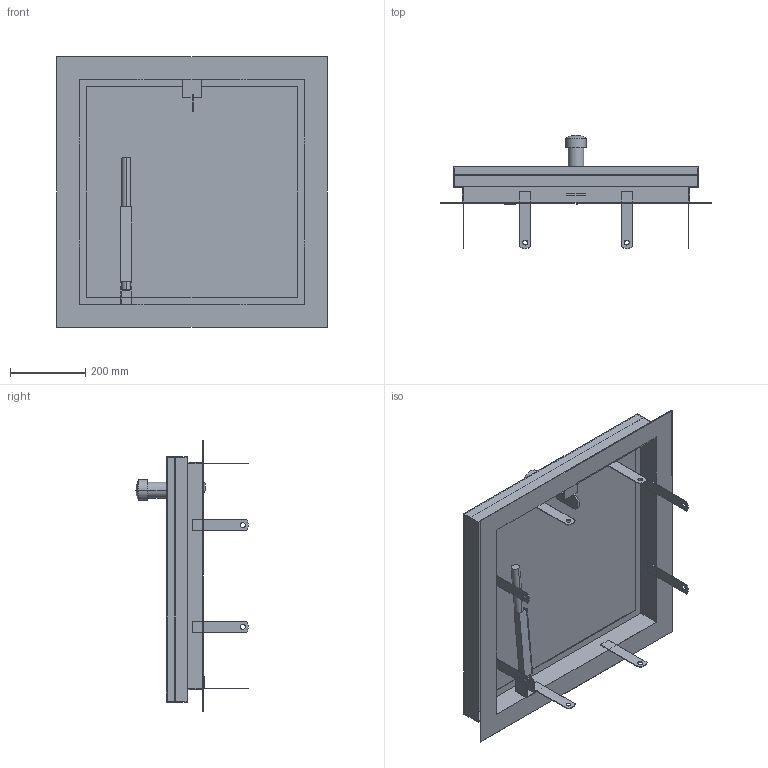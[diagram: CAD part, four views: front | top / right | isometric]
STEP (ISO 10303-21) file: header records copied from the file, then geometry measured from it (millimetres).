
FILE_DESCRIPTION((''),'2;1');
FILE_NAME('52335826','2024-12-19T07:17:10',('wep'),('HUBER SE'),'CREO PARAMETRIC BY PTC INC, 2022162','CREO PARAMETRIC BY PTC INC, 2022162','');
FILE_SCHEMA(('AUTOMOTIVE_DESIGN { 1 0 10303 214 1 1 1 1 }'));
Length unit declared in the file: millimetre
Products named in the file (1): 52335826
Bounding box: 720 x 300 x 720 mm (x, y, z)
Volume: 2752737.6 mm3; surface area: 2814168.5 mm2
Topology: 4 solids, 5 shells, 734 faces, 1996 edges, 1323 vertices
Faces by surface type: plane 422, extrusion 275, cylinder 35, sphere 2
Entity records: 24845 total; most frequent: CARTESIAN_POINT 6611, ORIENTED_EDGE 3988, DIRECTION 2709, EDGE_CURVE 1994, VECTOR 1647, LINE 1372, VERTEX_POINT 1323, B_SPLINE_CURVE_WITH_KNOTS 825
